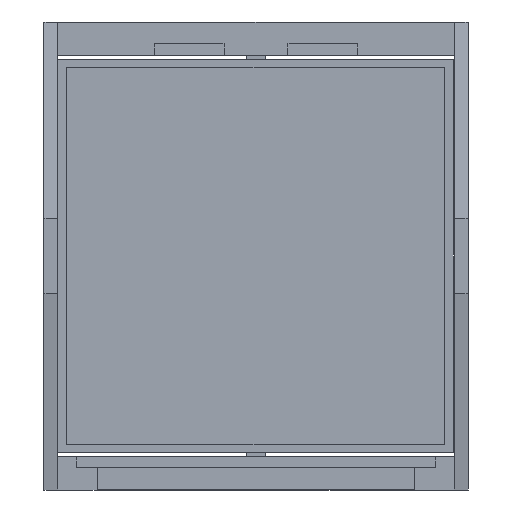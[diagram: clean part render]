
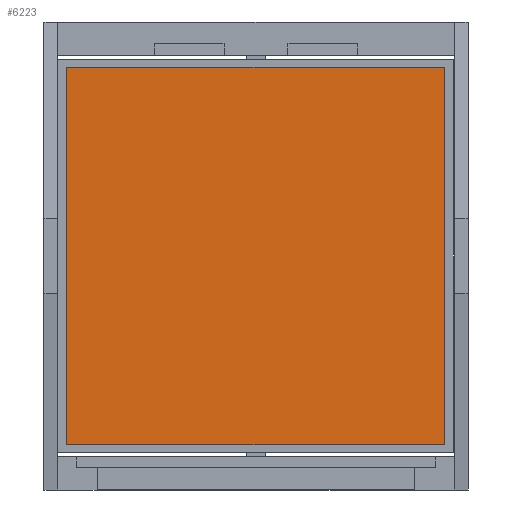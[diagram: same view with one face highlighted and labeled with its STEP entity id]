
A CAD part, front view. The second image highlights one B-rep face of the part: STEP entity #6223.
In plain terms, the highlighted planar face has unit normal (0, -1, 0).
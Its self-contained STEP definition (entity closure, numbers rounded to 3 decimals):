
#320 = CARTESIAN_POINT ( 'NONE',  ( -13.476, -2.324, -20.423 ) ) ;
#799 = EDGE_LOOP ( 'NONE', ( #5549, #5889, #8166, #3501 ) ) ;
#1538 = AXIS2_PLACEMENT_3D ( 'NONE', #2573, #7836, #1875 ) ;
#1707 = EDGE_CURVE ( 'NONE', #8476, #9267, #8477, .T. ) ;
#1838 = CARTESIAN_POINT ( 'NONE',  ( 24.524, -2.324, -20.423 ) ) ;
#1875 = DIRECTION ( 'NONE',  ( 0., 0., 1. ) ) ;
#2170 = LINE ( 'NONE', #2906, #6825 ) ;
#2573 = CARTESIAN_POINT ( 'NONE',  ( -13.476, -2.324, 17.577 ) ) ;
#2654 = CARTESIAN_POINT ( 'NONE',  ( 24.524, -2.324, -20.423 ) ) ;
#2906 = CARTESIAN_POINT ( 'NONE',  ( -13.476, -2.324, 17.577 ) ) ;
#3464 = VERTEX_POINT ( 'NONE', #8321 ) ;
#3501 = ORIENTED_EDGE ( 'NONE', *, *, #4079, .F. ) ;
#4079 = EDGE_CURVE ( 'NONE', #7076, #3464, #2170, .T. ) ;
#4450 = CARTESIAN_POINT ( 'NONE',  ( -13.476, -2.324, -20.423 ) ) ;
#4753 = LINE ( 'NONE', #320, #6184 ) ;
#5174 = CARTESIAN_POINT ( 'NONE',  ( -13.476, -2.324, 17.577 ) ) ;
#5549 = ORIENTED_EDGE ( 'NONE', *, *, #5839, .F. ) ;
#5612 = CARTESIAN_POINT ( 'NONE',  ( -13.476, -2.324, -20.423 ) ) ;
#5839 = EDGE_CURVE ( 'NONE', #9267, #7076, #4753, .T. ) ;
#5852 = DIRECTION ( 'NONE',  ( 1., 0., 0. ) ) ;
#5889 = ORIENTED_EDGE ( 'NONE', *, *, #1707, .F. ) ;
#6184 = VECTOR ( 'NONE', #9112, 1000. ) ;
#6223 = ADVANCED_FACE ( 'NONE', ( #7509 ), #7562, .F. ) ;
#6247 = EDGE_CURVE ( 'NONE', #3464, #8476, #7048, .T. ) ;
#6596 = VECTOR ( 'NONE', #7023, 1000. ) ;
#6825 = VECTOR ( 'NONE', #5852, 1000. ) ;
#6933 = VECTOR ( 'NONE', #7884, 1000. ) ;
#7023 = DIRECTION ( 'NONE',  ( -1., 0., 0. ) ) ;
#7048 = LINE ( 'NONE', #1838, #6933 ) ;
#7076 = VERTEX_POINT ( 'NONE', #5174 ) ;
#7509 = FACE_OUTER_BOUND ( 'NONE', #799, .T. ) ;
#7562 = PLANE ( 'NONE',  #1538 ) ;
#7836 = DIRECTION ( 'NONE',  ( 0., 1., 0. ) ) ;
#7884 = DIRECTION ( 'NONE',  ( 0., 0., -1. ) ) ;
#8166 = ORIENTED_EDGE ( 'NONE', *, *, #6247, .F. ) ;
#8321 = CARTESIAN_POINT ( 'NONE',  ( 24.524, -2.324, 17.577 ) ) ;
#8476 = VERTEX_POINT ( 'NONE', #2654 ) ;
#8477 = LINE ( 'NONE', #5612, #6596 ) ;
#9112 = DIRECTION ( 'NONE',  ( 0., 0., 1. ) ) ;
#9267 = VERTEX_POINT ( 'NONE', #4450 ) ;
